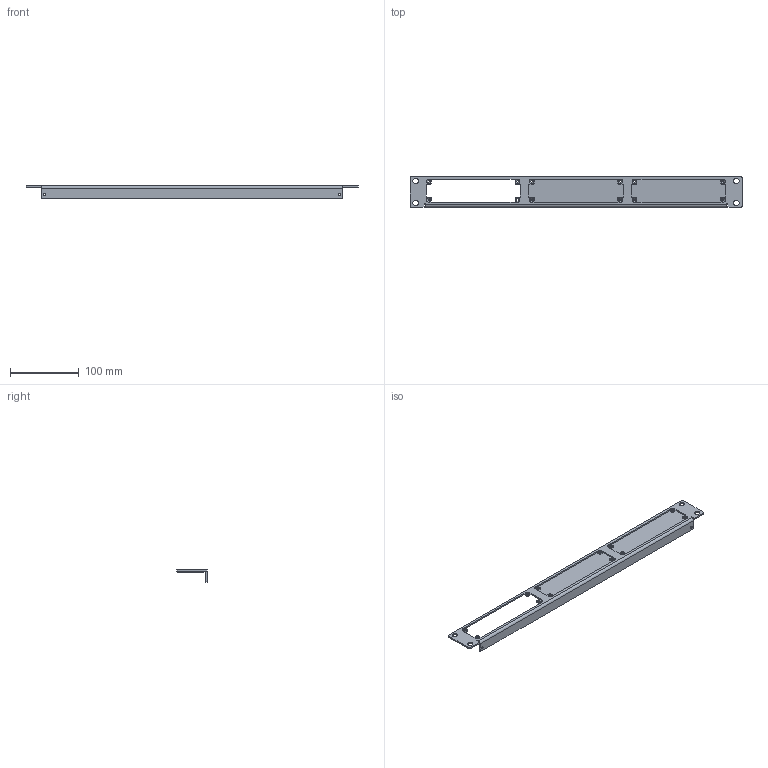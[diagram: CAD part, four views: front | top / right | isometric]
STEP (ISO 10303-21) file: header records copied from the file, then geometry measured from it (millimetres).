
FILE_DESCRIPTION (( 'STEP AP214' ), '1' );
FILE_NAME ('M81-RMP-3.STEP', '2023-04-25T13:59:15', ( '' ), ( '' ), 'SwSTEP 2.0', 'SolidWorks 2020', '' );
FILE_SCHEMA (( 'AUTOMOTIVE_DESIGN' ));
Length unit declared in the file: inch
Products named in the file (1): M81-RMP-3
Bounding box: 482.09 x 44.2 x 18.06 mm (x, y, z)
Volume: 51149.5 mm3; surface area: 56482.3 mm2
Topology: 3 solids, 3 shells, 184 faces, 502 edges, 324 vertices
Faces by surface type: cylinder 84, plane 76, cone 24
Entity records: 8412 total; most frequent: DIRECTION 1064, CARTESIAN_POINT 1011, ORIENTED_EDGE 1004, EDGE_CURVE 502, AXIS2_PLACEMENT_3D 377, VERTEX_POINT 324, VECTOR 310, LINE 310
